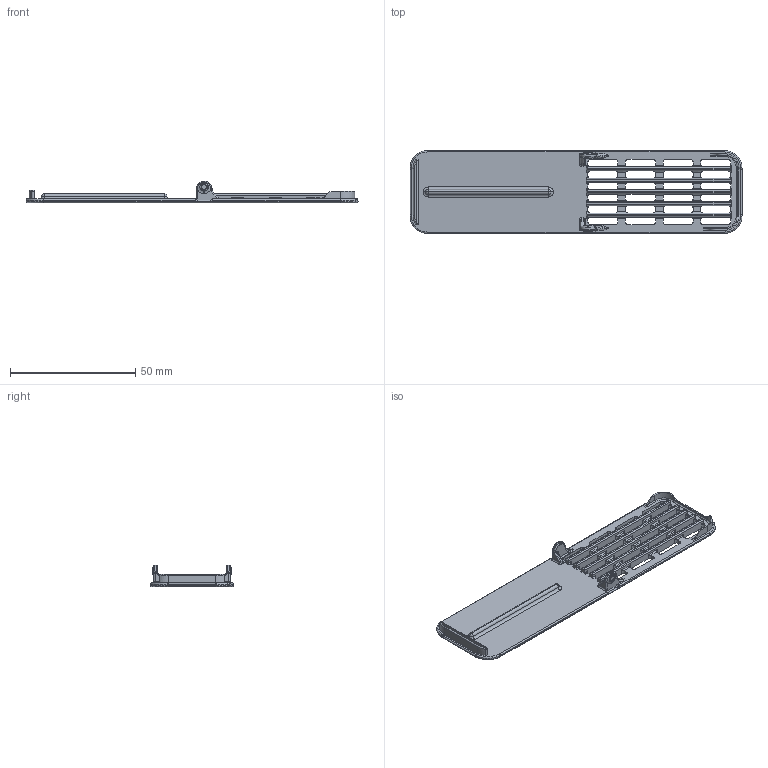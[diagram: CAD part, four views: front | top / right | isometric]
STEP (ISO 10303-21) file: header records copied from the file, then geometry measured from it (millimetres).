
FILE_DESCRIPTION (( 'STEP AP214' ), '1' );
FILE_NAME ('SENSOR16_COVER.STEP', '2026-01-25T14:35:09', ( '' ), ( '' ), 'SwSTEP 2.0', 'SolidWorks 2021', '' );
FILE_SCHEMA (( 'AUTOMOTIVE_DESIGN' ));
Length unit declared in the file: millimetre
Products named in the file (1): SENSOR16_COVER
Bounding box: 132.5 x 33 x 8.5 mm (x, y, z)
Volume: 6573 mm3; surface area: 10831.7 mm2
Topology: 13 solids, 13 shells, 1339 faces, 3828 edges, 2497 vertices
Faces by surface type: bspline 760, cylinder 271, plane 253, torus 46, sphere 9
Entity records: 49132 total; most frequent: CARTESIAN_POINT 20367, ORIENTED_EDGE 7632, EDGE_CURVE 3816, DIRECTION 3760, VERTEX_POINT 2497, VECTOR 1684, LINE 1684, EDGE_LOOP 1389
